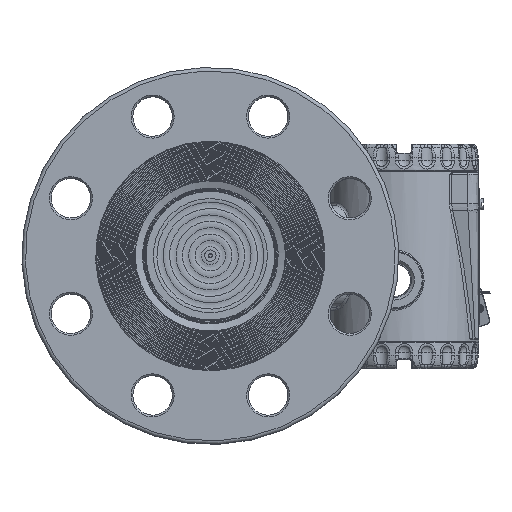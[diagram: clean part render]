
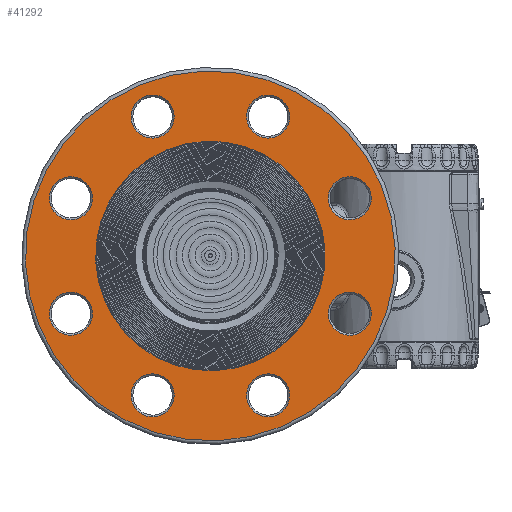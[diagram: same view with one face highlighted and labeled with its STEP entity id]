
A CAD part, top view. The second image highlights one B-rep face of the part: STEP entity #41292.
In plain terms, the highlighted planar face has unit normal (0, 0, 1).
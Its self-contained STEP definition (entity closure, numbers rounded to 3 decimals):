
#676=FACE_BOUND('',#6813,.T.);
#677=FACE_BOUND('',#6814,.T.);
#678=FACE_BOUND('',#6815,.T.);
#679=FACE_BOUND('',#6816,.T.);
#680=FACE_BOUND('',#6817,.T.);
#681=FACE_BOUND('',#6818,.T.);
#682=FACE_BOUND('',#6819,.T.);
#683=FACE_BOUND('',#6820,.T.);
#684=FACE_BOUND('',#6821,.T.);
#2678=PLANE('',#45848);
#4064=FACE_OUTER_BOUND('',#6812,.T.);
#6812=EDGE_LOOP('',(#31380));
#6813=EDGE_LOOP('',(#31381));
#6814=EDGE_LOOP('',(#31382));
#6815=EDGE_LOOP('',(#31383));
#6816=EDGE_LOOP('',(#31384));
#6817=EDGE_LOOP('',(#31385));
#6818=EDGE_LOOP('',(#31386));
#6819=EDGE_LOOP('',(#31387));
#6820=EDGE_LOOP('',(#31388));
#6821=EDGE_LOOP('',(#31389,#31390));
#13557=CIRCLE('',#45843,63.9);
#13561=CIRCLE('',#45847,63.9);
#13562=CIRCLE('',#45849,103.);
#13563=CIRCLE('',#45850,12.);
#13564=CIRCLE('',#45851,12.);
#13565=CIRCLE('',#45852,12.);
#13566=CIRCLE('',#45853,12.);
#13567=CIRCLE('',#45854,12.);
#13568=CIRCLE('',#45855,12.);
#13569=CIRCLE('',#45856,12.);
#13570=CIRCLE('',#45857,12.);
#18068=VERTEX_POINT('',#72891);
#18069=VERTEX_POINT('',#72892);
#18072=VERTEX_POINT('',#72901);
#18073=VERTEX_POINT('',#72903);
#18074=VERTEX_POINT('',#72905);
#18075=VERTEX_POINT('',#72907);
#18076=VERTEX_POINT('',#72909);
#18077=VERTEX_POINT('',#72911);
#18078=VERTEX_POINT('',#72913);
#18079=VERTEX_POINT('',#72915);
#18080=VERTEX_POINT('',#72917);
#22810=EDGE_CURVE('',#18068,#18069,#13557,.T.);
#22814=EDGE_CURVE('',#18069,#18068,#13561,.T.);
#22815=EDGE_CURVE('',#18072,#18072,#13562,.T.);
#22816=EDGE_CURVE('',#18073,#18073,#13563,.T.);
#22817=EDGE_CURVE('',#18074,#18074,#13564,.T.);
#22818=EDGE_CURVE('',#18075,#18075,#13565,.T.);
#22819=EDGE_CURVE('',#18076,#18076,#13566,.T.);
#22820=EDGE_CURVE('',#18077,#18077,#13567,.T.);
#22821=EDGE_CURVE('',#18078,#18078,#13568,.T.);
#22822=EDGE_CURVE('',#18079,#18079,#13569,.T.);
#22823=EDGE_CURVE('',#18080,#18080,#13570,.T.);
#31380=ORIENTED_EDGE('',*,*,#22815,.F.);
#31381=ORIENTED_EDGE('',*,*,#22816,.F.);
#31382=ORIENTED_EDGE('',*,*,#22817,.F.);
#31383=ORIENTED_EDGE('',*,*,#22818,.F.);
#31384=ORIENTED_EDGE('',*,*,#22819,.F.);
#31385=ORIENTED_EDGE('',*,*,#22820,.F.);
#31386=ORIENTED_EDGE('',*,*,#22821,.F.);
#31387=ORIENTED_EDGE('',*,*,#22822,.F.);
#31388=ORIENTED_EDGE('',*,*,#22823,.F.);
#31389=ORIENTED_EDGE('',*,*,#22810,.F.);
#31390=ORIENTED_EDGE('',*,*,#22814,.F.);
#41292=ADVANCED_FACE('',(#4064,#676,#677,#678,#679,#680,#681,#682,#683,
#684),#2678,.T.);
#45843=AXIS2_PLACEMENT_3D('',#72893,#53942,#53943);
#45847=AXIS2_PLACEMENT_3D('',#72899,#53950,#53951);
#45848=AXIS2_PLACEMENT_3D('',#72900,#53952,#53953);
#45849=AXIS2_PLACEMENT_3D('',#72902,#53954,#53955);
#45850=AXIS2_PLACEMENT_3D('',#72904,#53956,#53957);
#45851=AXIS2_PLACEMENT_3D('',#72906,#53958,#53959);
#45852=AXIS2_PLACEMENT_3D('',#72908,#53960,#53961);
#45853=AXIS2_PLACEMENT_3D('',#72910,#53962,#53963);
#45854=AXIS2_PLACEMENT_3D('',#72912,#53964,#53965);
#45855=AXIS2_PLACEMENT_3D('',#72914,#53966,#53967);
#45856=AXIS2_PLACEMENT_3D('',#72916,#53968,#53969);
#45857=AXIS2_PLACEMENT_3D('',#72918,#53970,#53971);
#53942=DIRECTION('center_axis',(0.,0.,1.));
#53943=DIRECTION('ref_axis',(-1.,0.,0.));
#53950=DIRECTION('center_axis',(0.,0.,1.));
#53951=DIRECTION('ref_axis',(-1.,0.,0.));
#53952=DIRECTION('center_axis',(0.,0.,1.));
#53953=DIRECTION('ref_axis',(1.,0.,0.));
#53954=DIRECTION('center_axis',(0.,0.,-1.));
#53955=DIRECTION('ref_axis',(-1.,0.,0.));
#53956=DIRECTION('center_axis',(0.,0.,1.));
#53957=DIRECTION('ref_axis',(0.,1.,0.));
#53958=DIRECTION('center_axis',(0.,0.,1.));
#53959=DIRECTION('ref_axis',(1.,0.,0.));
#53960=DIRECTION('center_axis',(0.,0.,1.));
#53961=DIRECTION('ref_axis',(-1.,0.,0.));
#53962=DIRECTION('center_axis',(0.,0.,1.));
#53963=DIRECTION('ref_axis',(0.707,-0.707,0.));
#53964=DIRECTION('center_axis',(0.,0.,1.));
#53965=DIRECTION('ref_axis',(0.,-1.,0.));
#53966=DIRECTION('center_axis',(0.,0.,1.));
#53967=DIRECTION('ref_axis',(-0.707,-0.707,0.));
#53968=DIRECTION('center_axis',(0.,0.,1.));
#53969=DIRECTION('ref_axis',(0.707,0.707,0.));
#53970=DIRECTION('center_axis',(0.,0.,1.));
#53971=DIRECTION('ref_axis',(-0.707,0.707,0.));
#72891=CARTESIAN_POINT('',(63.9,0.,27.));
#72892=CARTESIAN_POINT('',(-63.9,0.,27.));
#72893=CARTESIAN_POINT('Origin',(0.,0.,27.));
#72899=CARTESIAN_POINT('Origin',(0.,0.,27.));
#72900=CARTESIAN_POINT('Origin',(0.,0.,27.));
#72901=CARTESIAN_POINT('',(103.,0.,27.));
#72902=CARTESIAN_POINT('Origin',(0.,0.,27.));
#72903=CARTESIAN_POINT('',(84.05,-12.,27.));
#72904=CARTESIAN_POINT('Origin',(84.05,0.,27.));
#72905=CARTESIAN_POINT('',(-12.,-84.05,27.));
#72906=CARTESIAN_POINT('Origin',(0.,-84.05,27.));
#72907=CARTESIAN_POINT('',(12.,84.05,27.));
#72908=CARTESIAN_POINT('Origin',(0.,84.05,27.));
#72909=CARTESIAN_POINT('',(-67.918,-50.947,27.));
#72910=CARTESIAN_POINT('Origin',(-59.432,-59.432,27.));
#72911=CARTESIAN_POINT('',(-84.05,12.,27.));
#72912=CARTESIAN_POINT('Origin',(-84.05,0.,27.));
#72913=CARTESIAN_POINT('',(-50.947,67.918,27.));
#72914=CARTESIAN_POINT('Origin',(-59.432,59.432,27.));
#72915=CARTESIAN_POINT('',(50.947,-67.918,27.));
#72916=CARTESIAN_POINT('Origin',(59.432,-59.432,27.));
#72917=CARTESIAN_POINT('',(67.918,50.947,27.));
#72918=CARTESIAN_POINT('Origin',(59.432,59.432,27.));
